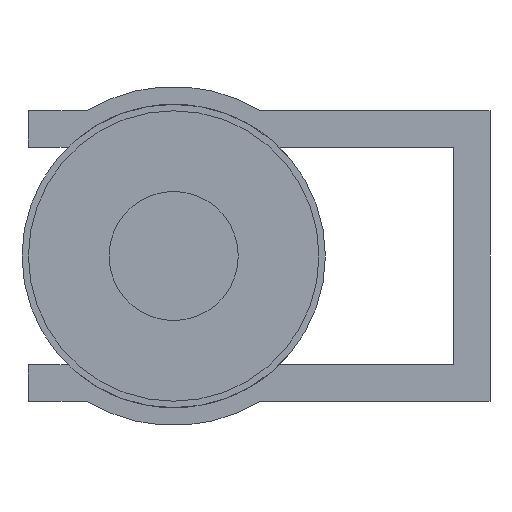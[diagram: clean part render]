
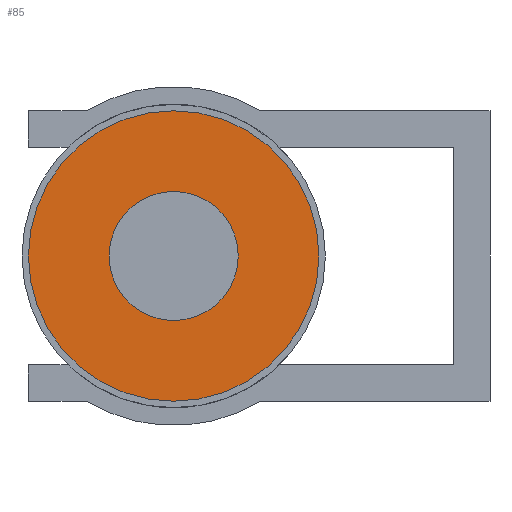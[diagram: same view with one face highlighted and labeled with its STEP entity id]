
A CAD part, left-side view. The second image highlights one B-rep face of the part: STEP entity #85.
In plain terms, the highlighted planar face has unit normal (-1, 0, 0).
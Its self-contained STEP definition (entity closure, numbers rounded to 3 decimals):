
#85=ADVANCED_FACE('',(#155,#156),#157,.F.);
#155=FACE_BOUND('',#292,.T.);
#156=FACE_OUTER_BOUND('',#293,.T.);
#157=PLANE('',#294);
#292=EDGE_LOOP('',(#477));
#293=EDGE_LOOP('',(#478));
#294=AXIS2_PLACEMENT_3D('',#479,#480,#481);
#477=ORIENTED_EDGE('',*,*,#860,.T.);
#478=ORIENTED_EDGE('',*,*,#858,.F.);
#479=CARTESIAN_POINT('',(-39.8,4.0,0.0));
#480=DIRECTION('',(1.0,0.,0.0));
#481=DIRECTION('',(0.,1.0,0.0));
#858=EDGE_CURVE('',#1016,#1016,#1017,.T.);
#860=EDGE_CURVE('',#1020,#1020,#1021,.T.);
#1016=VERTEX_POINT('',#1258);
#1017=CIRCLE('',#1259,9.0);
#1020=VERTEX_POINT('',#1262);
#1021=CIRCLE('',#1263,4.);
#1258=CARTESIAN_POINT('',(-39.8,9.0,0.0));
#1259=AXIS2_PLACEMENT_3D('',#1524,#1525,#1526);
#1262=CARTESIAN_POINT('',(-39.8,4.0,0.0));
#1263=AXIS2_PLACEMENT_3D('',#1530,#1531,#1532);
#1524=CARTESIAN_POINT('',(-39.8,0.,0.0));
#1525=DIRECTION('',(1.0,0.,0.0));
#1526=DIRECTION('',(0.,1.0,0.0));
#1530=CARTESIAN_POINT('',(-39.8,0.,0.0));
#1531=DIRECTION('',(1.0,0.,0.0));
#1532=DIRECTION('',(0.,1.0,0.0));
